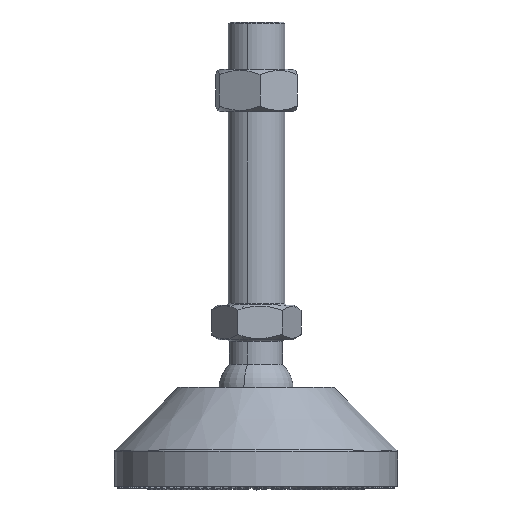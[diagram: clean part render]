
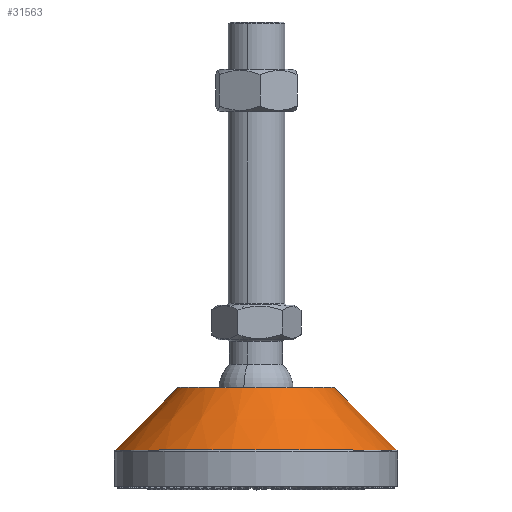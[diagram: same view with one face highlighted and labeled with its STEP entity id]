
A CAD part, top view. The second image highlights one B-rep face of the part: STEP entity #31563.
In plain terms, the highlighted conical face has half-angle 45 degrees and reference radius 22 mm.
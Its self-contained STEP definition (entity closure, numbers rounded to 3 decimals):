
#130 = EDGE_CURVE ( 'NONE', #1619, #6060, #6219, .T. ) ;
#343 = LINE ( 'NONE', #1121, #12214 ) ;
#457 = VECTOR ( 'NONE', #15290, 1000. ) ;
#1121 = CARTESIAN_POINT ( 'NONE',  ( 22., 0., 28. ) ) ;
#1619 = VERTEX_POINT ( 'NONE', #29524 ) ;
#2043 = CARTESIAN_POINT ( 'NONE',  ( 22.205, 0., 27.795 ) ) ;
#3681 = DIRECTION ( 'NONE',  ( 0.707, 0., -0.707 ) ) ;
#6060 = VERTEX_POINT ( 'NONE', #10193 ) ;
#6213 = DIRECTION ( 'NONE',  ( 0., 0., 1. ) ) ;
#6219 = CIRCLE ( 'NONE', #30683, 39.795 ) ;
#6234 = DIRECTION ( 'NONE',  ( 0., 0., -1. ) ) ;
#7541 = FACE_OUTER_BOUND ( 'NONE', #8762, .T. ) ;
#8762 = EDGE_LOOP ( 'NONE', ( #31477, #20805, #10625, #13515 ) ) ;
#10193 = CARTESIAN_POINT ( 'NONE',  ( 39.795, 0., 10.205 ) ) ;
#10625 = ORIENTED_EDGE ( 'NONE', *, *, #30143, .T. ) ;
#12214 = VECTOR ( 'NONE', #3681, 1000. ) ;
#12746 = CARTESIAN_POINT ( 'NONE',  ( -22., 0., 28. ) ) ;
#13507 = DIRECTION ( 'NONE',  ( 0., 0., -1. ) ) ;
#13515 = ORIENTED_EDGE ( 'NONE', *, *, #130, .T. ) ;
#14951 = VERTEX_POINT ( 'NONE', #2043 ) ;
#15290 = DIRECTION ( 'NONE',  ( -0.707, 0., -0.707 ) ) ;
#16162 = CIRCLE ( 'NONE', #29036, 22.205 ) ;
#17074 = CARTESIAN_POINT ( 'NONE',  ( -22.205, 0., 27.795 ) ) ;
#19471 = CONICAL_SURFACE ( 'NONE', #25992, 22., 0.785 ) ;
#20706 = LINE ( 'NONE', #12746, #457 ) ;
#20805 = ORIENTED_EDGE ( 'NONE', *, *, #26835, .T. ) ;
#21432 = CARTESIAN_POINT ( 'NONE',  ( 0., 0., 10.205 ) ) ;
#23975 = DIRECTION ( 'NONE',  ( -1., 0., 0. ) ) ;
#24011 = CARTESIAN_POINT ( 'NONE',  ( 0., 0., 28. ) ) ;
#25992 = AXIS2_PLACEMENT_3D ( 'NONE', #24011, #6234, #31417 ) ;
#26512 = VERTEX_POINT ( 'NONE', #17074 ) ;
#26835 = EDGE_CURVE ( 'NONE', #14951, #26512, #16162, .T. ) ;
#28720 = CARTESIAN_POINT ( 'NONE',  ( 0., 0., 27.795 ) ) ;
#29036 = AXIS2_PLACEMENT_3D ( 'NONE', #28720, #13507, #31267 ) ;
#29524 = CARTESIAN_POINT ( 'NONE',  ( -39.795, 0., 10.205 ) ) ;
#30143 = EDGE_CURVE ( 'NONE', #26512, #1619, #20706, .T. ) ;
#30683 = AXIS2_PLACEMENT_3D ( 'NONE', #21432, #6213, #23975 ) ;
#31267 = DIRECTION ( 'NONE',  ( 1., 0., 0. ) ) ;
#31417 = DIRECTION ( 'NONE',  ( -1., 0., 0. ) ) ;
#31477 = ORIENTED_EDGE ( 'NONE', *, *, #32861, .F. ) ;
#31563 = ADVANCED_FACE ( 'NONE', ( #7541 ), #19471, .T. ) ;
#32861 = EDGE_CURVE ( 'NONE', #14951, #6060, #343, .T. ) ;
